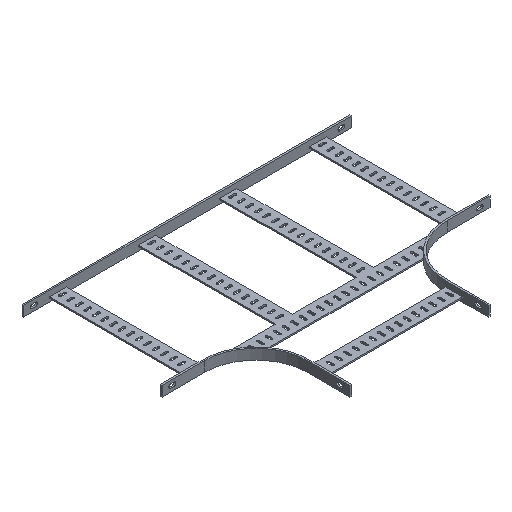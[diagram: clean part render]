
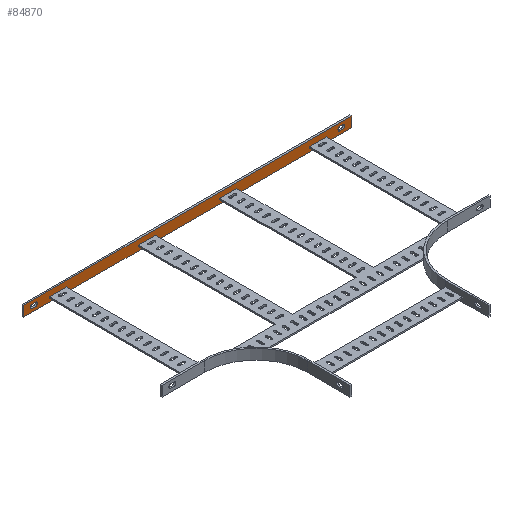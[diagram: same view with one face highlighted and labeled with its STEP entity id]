
A CAD part, isometric view. The second image highlights one B-rep face of the part: STEP entity #84870.
In plain terms, the highlighted planar face has unit normal (0, -1, 0).
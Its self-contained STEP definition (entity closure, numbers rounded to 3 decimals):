
#36410=CARTESIAN_POINT('',(-610.,555.,-20.));
#36420=VERTEX_POINT('',#36410);
#36450=CARTESIAN_POINT('',(0.,555.,-20.));
#36460=DIRECTION('',(1.,0.,0.));
#36470=VECTOR('',#36460,1.);
#36480=LINE('',#36450,#36470);
#36490=CARTESIAN_POINT('',(-660.,555.,-20.));
#36500=VERTEX_POINT('',#36490);
#36510=EDGE_CURVE('',#36500,#36420,#36480,.T.);
#42880=CARTESIAN_POINT('',(-610.,555.,-16.));
#42890=VERTEX_POINT('',#42880);
#42920=CARTESIAN_POINT('',(-610.,555.,0.));
#42930=DIRECTION('',(0.,0.,1.));
#42940=VECTOR('',#42930,1.);
#42950=LINE('',#42920,#42940);
#42960=EDGE_CURVE('',#36420,#42890,#42950,.T.);
#43120=CARTESIAN_POINT('',(-660.,555.,-16.));
#43130=VERTEX_POINT('',#43120);
#43160=CARTESIAN_POINT('',(0.,555.,-16.));
#43170=DIRECTION('',(-1.,0.,0.));
#43180=VECTOR('',#43170,1.);
#43190=LINE('',#43160,#43180);
#43200=EDGE_CURVE('',#42890,#43130,#43190,.T.);
#49090=CARTESIAN_POINT('',(-660.,555.,0.));
#49100=DIRECTION('',(0.,0.,-1.));
#49110=VECTOR('',#49100,1.);
#49120=LINE('',#49090,#49110);
#49130=EDGE_CURVE('',#43130,#36500,#49120,.T.);
#60500=CARTESIAN_POINT('',(151.,555.,-16.));
#60510=VERTEX_POINT('',#60500);
#60540=CARTESIAN_POINT('',(151.,555.,0.));
#60550=DIRECTION('',(0.,0.,1.));
#60560=VECTOR('',#60550,1.);
#60570=LINE('',#60540,#60560);
#60580=CARTESIAN_POINT('',(151.,555.,-20.));
#60590=VERTEX_POINT('',#60580);
#60600=EDGE_CURVE('',#60590,#60510,#60570,.T.);
#60780=CARTESIAN_POINT('',(0.,555.,-20.));
#60790=DIRECTION('',(1.,0.,0.));
#60800=VECTOR('',#60790,1.);
#60810=LINE('',#60780,#60800);
#60820=CARTESIAN_POINT('',(101.,555.,-20.));
#60830=VERTEX_POINT('',#60820);
#60840=EDGE_CURVE('',#60830,#60590,#60810,.T.);
#66610=CARTESIAN_POINT('',(101.,555.,0.));
#66620=DIRECTION('',(0.,0.,-1.));
#66630=VECTOR('',#66620,1.);
#66640=LINE('',#66610,#66630);
#66650=CARTESIAN_POINT('',(101.,555.,-16.));
#66660=VERTEX_POINT('',#66650);
#66670=EDGE_CURVE('',#66660,#60830,#66640,.T.);
#66850=CARTESIAN_POINT('',(0.,555.,-16.));
#66860=DIRECTION('',(-1.,0.,0.));
#66870=VECTOR('',#66860,1.);
#66880=LINE('',#66850,#66870);
#66890=EDGE_CURVE('',#60510,#66660,#66880,.T.);
#83040=CARTESIAN_POINT('',(125.,555.,0.));
#83050=DIRECTION('',(-0.,1.,0.));
#83060=DIRECTION('',(1.,0.,0.));
#83070=AXIS2_PLACEMENT_3D('',#83040,#83050,#83060);
#83080=PLANE('',#83070);
#83090=CARTESIAN_POINT('',(-709.5,555.,-15.));
#83100=DIRECTION('',(0.,1.,0.));
#83110=DIRECTION('',(-1.,0.,0.));
#83120=AXIS2_PLACEMENT_3D('',#83090,#83100,#83110);
#83130=CIRCLE('',#83120,5.5);
#83140=CARTESIAN_POINT('',(-709.5,555.,-20.5));
#83150=VERTEX_POINT('',#83140);
#83160=CARTESIAN_POINT('',(-709.5,555.,-9.5));
#83170=VERTEX_POINT('',#83160);
#83180=EDGE_CURVE('',#83150,#83170,#83130,.T.);
#83190=ORIENTED_EDGE('',*,*,#83180,.T.);
#83200=CARTESIAN_POINT('',(-610.,555.,-20.5));
#83210=DIRECTION('',(-1.,0.,0.));
#83220=VECTOR('',#83210,1.);
#83230=LINE('',#83200,#83220);
#83240=CARTESIAN_POINT('',(-700.5,555.,-20.5));
#83250=VERTEX_POINT('',#83240);
#83260=EDGE_CURVE('',#83250,#83150,#83230,.T.);
#83270=ORIENTED_EDGE('',*,*,#83260,.T.);
#83280=CARTESIAN_POINT('',(-700.5,555.,-15.));
#83290=DIRECTION('',(0.,-1.,0.));
#83300=DIRECTION('',(-1.,0.,0.));
#83310=AXIS2_PLACEMENT_3D('',#83280,#83290,#83300);
#83320=CIRCLE('',#83310,5.5);
#83330=CARTESIAN_POINT('',(-700.5,555.,-9.5));
#83340=VERTEX_POINT('',#83330);
#83350=EDGE_CURVE('',#83250,#83340,#83320,.T.);
#83360=ORIENTED_EDGE('',*,*,#83350,.F.);
#83370=CARTESIAN_POINT('',(-610.,555.,-9.5));
#83380=DIRECTION('',(1.,0.,0.));
#83390=VECTOR('',#83380,1.);
#83400=LINE('',#83370,#83390);
#83410=EDGE_CURVE('',#83170,#83340,#83400,.T.);
#83420=ORIENTED_EDGE('',*,*,#83410,.T.);
#83430=EDGE_LOOP('',(#83420,#83360,#83270,#83190));
#83440=FACE_BOUND('',#83430,.T.);
#83450=CARTESIAN_POINT('',(-510.,555.,-20.5));
#83460=DIRECTION('',(-1.,0.,0.));
#83470=VECTOR('',#83460,1.);
#83480=LINE('',#83450,#83470);
#83490=CARTESIAN_POINT('',(199.5,555.,-20.5));
#83500=VERTEX_POINT('',#83490);
#83510=CARTESIAN_POINT('',(190.5,555.,-20.5));
#83520=VERTEX_POINT('',#83510);
#83530=EDGE_CURVE('',#83500,#83520,#83480,.T.);
#83540=ORIENTED_EDGE('',*,*,#83530,.T.);
#83550=CARTESIAN_POINT('',(199.5,555.,-15.));
#83560=DIRECTION('',(0.,1.,0.));
#83570=DIRECTION('',(1.,0.,0.));
#83580=AXIS2_PLACEMENT_3D('',#83550,#83560,#83570);
#83590=CIRCLE('',#83580,5.5);
#83600=CARTESIAN_POINT('',(199.5,555.,-9.5));
#83610=VERTEX_POINT('',#83600);
#83620=EDGE_CURVE('',#83610,#83500,#83590,.T.);
#83630=ORIENTED_EDGE('',*,*,#83620,.T.);
#83640=CARTESIAN_POINT('',(-510.,555.,-9.5));
#83650=DIRECTION('',(1.,0.,0.));
#83660=VECTOR('',#83650,1.);
#83670=LINE('',#83640,#83660);
#83680=CARTESIAN_POINT('',(190.5,555.,-9.5));
#83690=VERTEX_POINT('',#83680);
#83700=EDGE_CURVE('',#83690,#83610,#83670,.T.);
#83710=ORIENTED_EDGE('',*,*,#83700,.T.);
#83720=CARTESIAN_POINT('',(190.5,555.,-15.));
#83730=DIRECTION('',(0.,-1.,0.));
#83740=DIRECTION('',(1.,0.,0.));
#83750=AXIS2_PLACEMENT_3D('',#83720,#83730,#83740);
#83760=CIRCLE('',#83750,5.5);
#83770=EDGE_CURVE('',#83690,#83520,#83760,.T.);
#83780=ORIENTED_EDGE('',*,*,#83770,.F.);
#83790=EDGE_LOOP('',(#83780,#83710,#83630,#83540));
#83800=FACE_BOUND('',#83790,.T.);
#83810=CARTESIAN_POINT('',(225.,555.,0.));
#83820=DIRECTION('',(0.,0.,-1.));
#83830=VECTOR('',#83820,1.);
#83840=LINE('',#83810,#83830);
#83850=CARTESIAN_POINT('',(225.,555.,0.));
#83860=VERTEX_POINT('',#83850);
#83870=CARTESIAN_POINT('',(225.,555.,-30.));
#83880=VERTEX_POINT('',#83870);
#83890=EDGE_CURVE('',#83860,#83880,#83840,.T.);
#83900=ORIENTED_EDGE('',*,*,#83890,.F.);
#83910=CARTESIAN_POINT('',(125.,555.,-30.));
#83920=DIRECTION('',(-1.,0.,0.));
#83930=VECTOR('',#83920,1.);
#83940=LINE('',#83910,#83930);
#83950=CARTESIAN_POINT('',(-735.,555.,-30.));
#83960=VERTEX_POINT('',#83950);
#83970=EDGE_CURVE('',#83880,#83960,#83940,.T.);
#83980=ORIENTED_EDGE('',*,*,#83970,.F.);
#83990=CARTESIAN_POINT('',(-735.,555.,0.));
#84000=DIRECTION('',(0.,0.,-1.));
#84010=VECTOR('',#84000,1.);
#84020=LINE('',#83990,#84010);
#84030=CARTESIAN_POINT('',(-735.,555.,0.));
#84040=VERTEX_POINT('',#84030);
#84050=EDGE_CURVE('',#84040,#83960,#84020,.T.);
#84060=ORIENTED_EDGE('',*,*,#84050,.T.);
#84070=CARTESIAN_POINT('',(125.,555.,0.));
#84080=DIRECTION('',(-1.,0.,0.));
#84090=VECTOR('',#84080,1.);
#84100=LINE('',#84070,#84090);
#84110=EDGE_CURVE('',#83860,#84040,#84100,.T.);
#84120=ORIENTED_EDGE('',*,*,#84110,.T.);
#84130=EDGE_LOOP('',(#84120,#84060,#83980,#83900));
#84140=FACE_OUTER_BOUND('',#84130,.T.);
#84150=CARTESIAN_POINT('',(0.,555.,-20.));
#84160=DIRECTION('',(1.,0.,0.));
#84170=VECTOR('',#84160,1.);
#84180=LINE('',#84150,#84170);
#84190=CARTESIAN_POINT('',(-161.,555.,-20.));
#84200=VERTEX_POINT('',#84190);
#84210=CARTESIAN_POINT('',(-111.,555.,-20.));
#84220=VERTEX_POINT('',#84210);
#84230=EDGE_CURVE('',#84200,#84220,#84180,.T.);
#84240=ORIENTED_EDGE('',*,*,#84230,.F.);
#84250=CARTESIAN_POINT('',(-111.,555.,0.));
#84260=DIRECTION('',(0.,0.,1.));
#84270=VECTOR('',#84260,1.);
#84280=LINE('',#84250,#84270);
#84290=CARTESIAN_POINT('',(-111.,555.,-16.));
#84300=VERTEX_POINT('',#84290);
#84310=EDGE_CURVE('',#84220,#84300,#84280,.T.);
#84320=ORIENTED_EDGE('',*,*,#84310,.F.);
#84330=CARTESIAN_POINT('',(0.,555.,-16.));
#84340=DIRECTION('',(-1.,0.,0.));
#84350=VECTOR('',#84340,1.);
#84360=LINE('',#84330,#84350);
#84370=CARTESIAN_POINT('',(-161.,555.,-16.));
#84380=VERTEX_POINT('',#84370);
#84390=EDGE_CURVE('',#84300,#84380,#84360,.T.);
#84400=ORIENTED_EDGE('',*,*,#84390,.F.);
#84410=CARTESIAN_POINT('',(-161.,555.,0.));
#84420=DIRECTION('',(0.,0.,-1.));
#84430=VECTOR('',#84420,1.);
#84440=LINE('',#84410,#84430);
#84450=EDGE_CURVE('',#84380,#84200,#84440,.T.);
#84460=ORIENTED_EDGE('',*,*,#84450,.F.);
#84470=EDGE_LOOP('',(#84460,#84400,#84320,#84240));
#84480=FACE_BOUND('',#84470,.T.);
#84490=CARTESIAN_POINT('',(-398.,555.,-20.));
#84500=VERTEX_POINT('',#84490);
#84510=CARTESIAN_POINT('',(-348.,555.,-20.));
#84520=VERTEX_POINT('',#84510);
#84530=EDGE_CURVE('',#84500,#84520,#84180,.T.);
#84540=ORIENTED_EDGE('',*,*,#84530,.F.);
#84550=CARTESIAN_POINT('',(-348.,555.,0.));
#84560=DIRECTION('',(0.,0.,1.));
#84570=VECTOR('',#84560,1.);
#84580=LINE('',#84550,#84570);
#84590=CARTESIAN_POINT('',(-348.,555.,-16.));
#84600=VERTEX_POINT('',#84590);
#84610=EDGE_CURVE('',#84520,#84600,#84580,.T.);
#84620=ORIENTED_EDGE('',*,*,#84610,.F.);
#84630=CARTESIAN_POINT('',(-398.,555.,-16.));
#84640=VERTEX_POINT('',#84630);
#84650=EDGE_CURVE('',#84600,#84640,#84360,.T.);
#84660=ORIENTED_EDGE('',*,*,#84650,.F.);
#84670=CARTESIAN_POINT('',(-398.,555.,0.));
#84680=DIRECTION('',(0.,0.,-1.));
#84690=VECTOR('',#84680,1.);
#84700=LINE('',#84670,#84690);
#84710=EDGE_CURVE('',#84640,#84500,#84700,.T.);
#84720=ORIENTED_EDGE('',*,*,#84710,.F.);
#84730=EDGE_LOOP('',(#84720,#84660,#84620,#84540));
#84740=FACE_BOUND('',#84730,.T.);
#84750=ORIENTED_EDGE('',*,*,#60840,.F.);
#84760=ORIENTED_EDGE('',*,*,#60600,.F.);
#84770=ORIENTED_EDGE('',*,*,#66890,.F.);
#84780=ORIENTED_EDGE('',*,*,#66670,.F.);
#84790=EDGE_LOOP('',(#84780,#84770,#84760,#84750));
#84800=FACE_BOUND('',#84790,.T.);
#84810=ORIENTED_EDGE('',*,*,#49130,.F.);
#84820=ORIENTED_EDGE('',*,*,#36510,.F.);
#84830=ORIENTED_EDGE('',*,*,#42960,.F.);
#84840=ORIENTED_EDGE('',*,*,#43200,.F.);
#84850=EDGE_LOOP('',(#84840,#84830,#84820,#84810));
#84860=FACE_BOUND('',#84850,.T.);
#84870=ADVANCED_FACE('',(#83440,#83800,#84140,#84480,#84740,#84800,
#84860),#83080,.F.);
